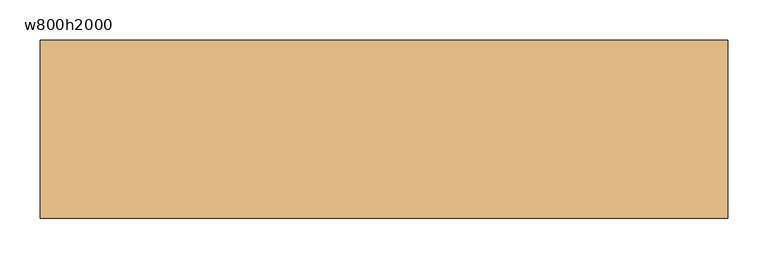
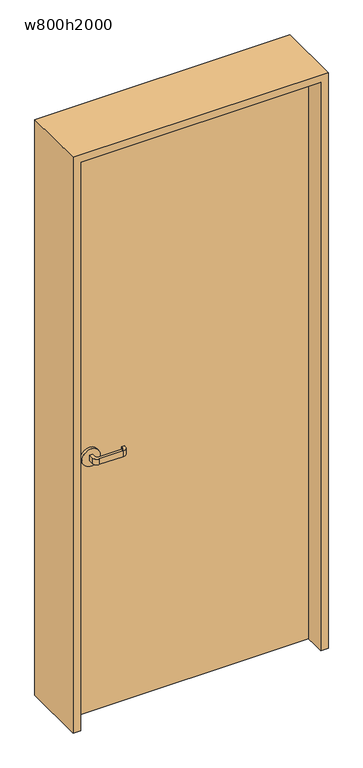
"""IFC4 building model written with IfcOpenShell, lengths in millimetres: door geometry, 片開き戸 : w800h2000."""

from ifc_helpers import new_model, si_unit, point, frame, frame_2d, origin, origin_with_axes, place, context, project, spatial, polyline, circle_curve, trimmed, segment, composite_curve, outline, extrude, source, transform, mapped, element, save


def w800h2000_a5e513ef(model_context):
    return source(origin(), model_context, "Body", "SweptSolid", [
        extrude(outline(polyline([(400.0, -40.0), (-400.0, -40.0), (-400.0, 0.0), (400.0, 0.0), (400.0, -40.0)])), origin_with_axes(), (0.0, 0.0, 1.0), 2000.0),
        extrude(outline(composite_curve([segment(polyline([(-325.0, -50.0), (-325.0, -65.0)]), True, "CONTINUOUS"), segment(trimmed(circle_curve(frame_2d((-320.0, -65.0)), 5.0), [point((-325.0, -65.0))], [point((-320.0, -70.0))], True, "CARTESIAN"), True, "CONTINUOUS"), segment(polyline([(-320.0, -70.0), (-240.0, -70.0)]), True, "CONTINUOUS"), segment(trimmed(circle_curve(frame_2d((-240.0, -65.0)), 5.0), [point((-240.0, -70.0))], [point((-235.0, -65.0))], True, "CARTESIAN"), True, "CONTINUOUS"), segment(polyline([(-235.0, -65.0), (-235.0, -60.0), (-225.0, -60.0), (-225.0, -65.0)]), True, "CONTINUOUS"), segment(trimmed(circle_curve(frame_2d((-240.0, -65.0)), 15.0), [point((-225.0, -65.0))], [point((-240.0, -80.0))], False, "CARTESIAN"), True, "CONTINUOUS"), segment(polyline([(-240.0, -80.0), (-320.0, -80.0)]), True, "CONTINUOUS"), segment(trimmed(circle_curve(frame_2d((-320.0, -65.0)), 15.0), [point((-320.0, -80.0))], [point((-335.0, -65.0))], False, "CARTESIAN"), True, "CONTINUOUS"), segment(polyline([(-335.0, -65.0), (-335.0, -50.0), (-325.0, -50.0)]), True, "CONTINUOUS")], self_intersect=False)), frame((0.0, 0.0, 890.0), z_axis=(0.0, 0.0, 1.0), x_axis=(1.0, 0.0, 0.0)), (0.0, 0.0, 1.0), 20.0),
        extrude(outline(composite_curve([segment(trimmed(circle_curve(frame_2d((900.0, -330.0)), 30.0), [point((900.0, -360.0))], [point((900.0, -300.0))], False, "CARTESIAN"), True, "CONTINUOUS"), segment(trimmed(circle_curve(frame_2d((900.0, -330.0)), 30.0), [point((900.0, -300.0))], [point((900.0, -360.0))], False, "CARTESIAN"), True, "CONTINUOUS")], self_intersect=False)), frame((0.0, -50.0, 0.0), z_axis=(0.0, 1.0, 0.0), x_axis=(0.0, 0.0, 1.0)), (0.0, 0.0, 1.0), 10.0),
        extrude(outline(composite_curve([segment(polyline([(-335.0, 10.0), (-335.0, 25.0)]), True, "CONTINUOUS"), segment(trimmed(circle_curve(frame_2d((-320.0, 25.0)), 15.0), [point((-335.0, 25.0))], [point((-320.0, 40.0))], False, "CARTESIAN"), True, "CONTINUOUS"), segment(polyline([(-320.0, 40.0), (-240.0, 40.0)]), True, "CONTINUOUS"), segment(trimmed(circle_curve(frame_2d((-240.0, 25.0)), 15.0), [point((-240.0, 40.0))], [point((-225.0, 25.0))], False, "CARTESIAN"), True, "CONTINUOUS"), segment(polyline([(-225.0, 25.0), (-225.0, 20.0), (-235.0, 20.0), (-235.0, 25.0)]), True, "CONTINUOUS"), segment(trimmed(circle_curve(frame_2d((-240.0, 25.0)), 5.0), [point((-235.0, 25.0))], [point((-240.0, 30.0))], True, "CARTESIAN"), True, "CONTINUOUS"), segment(polyline([(-240.0, 30.0), (-320.0, 30.0)]), True, "CONTINUOUS"), segment(trimmed(circle_curve(frame_2d((-320.0, 25.0)), 5.0), [point((-320.0, 30.0))], [point((-325.0, 25.0))], True, "CARTESIAN"), True, "CONTINUOUS"), segment(polyline([(-325.0, 25.0), (-325.0, 10.0), (-335.0, 10.0)]), True, "CONTINUOUS")], self_intersect=False)), frame((0.0, 0.0, 890.0), z_axis=(0.0, 0.0, 1.0), x_axis=(1.0, 0.0, 0.0)), (0.0, 0.0, 1.0), 20.0),
        extrude(outline(composite_curve([segment(trimmed(circle_curve(frame_2d((900.0, -330.0)), 30.0), [point((900.0, -360.0))], [point((900.0, -300.0))], False, "CARTESIAN"), True, "CONTINUOUS"), segment(trimmed(circle_curve(frame_2d((900.0, -330.0)), 30.0), [point((900.0, -300.0))], [point((900.0, -360.0))], False, "CARTESIAN"), True, "CONTINUOUS")], self_intersect=False)), frame((0.0, 0.0, 0.0), z_axis=(0.0, 1.0, 0.0), x_axis=(0.0, 0.0, 1.0)), (0.0, 0.0, 1.0), 10.0),
        extrude(outline(polyline([(0.0, -400.0), (2000.0, -400.0), (2000.0, 400.0), (0.0, 400.0), (0.0, 425.0), (2025.0, 425.0), (2025.0, -425.0), (0.0, -425.0), (0.0, -400.0)])), frame((0.0, -110.0, 0.0), z_axis=(0.0, 1.0, 0.0), x_axis=(0.0, 0.0, 1.0)), (0.0, 0.0, 1.0), 220.0),
    ])


if __name__ == "__main__":
    model = new_model("IFC4")
    model_context = context("Model", 3, world=origin())
    ifc_project = project(units=[si_unit("LENGTHUNIT", "METRE", prefix="MILLI")], contexts=[model_context])
    site = spatial("IfcSite", under=ifc_project)
    building = spatial("IfcBuilding", under=site)
    placement = place(None, origin())
    w800h2000_shape = w800h2000_a5e513ef(model_context)
    element("IfcDoor", 1, ObjectType="片開き戸 : w800h2000", at=placement, inside=building, context=model_context, shape_type="MappedRepresentation", body=[
        mapped(w800h2000_shape, transform((0.0, 0.0, 0.0), x_axis=(1.0, 0.0, 0.0), y_axis=(0.0, 1.0, 0.0), z_axis=(0.0, 0.0, 1.0))),
    ])
    save(model, "model.ifc")
